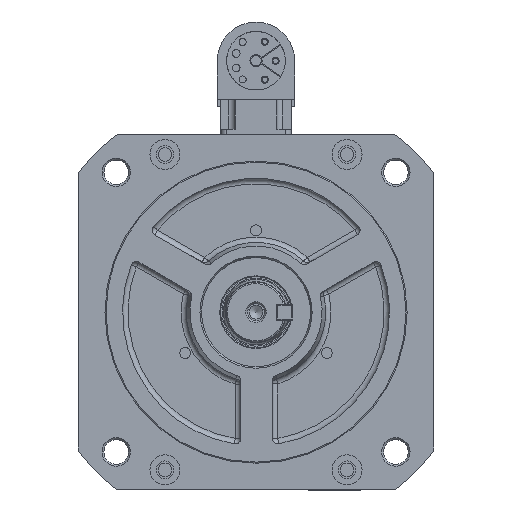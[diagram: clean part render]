
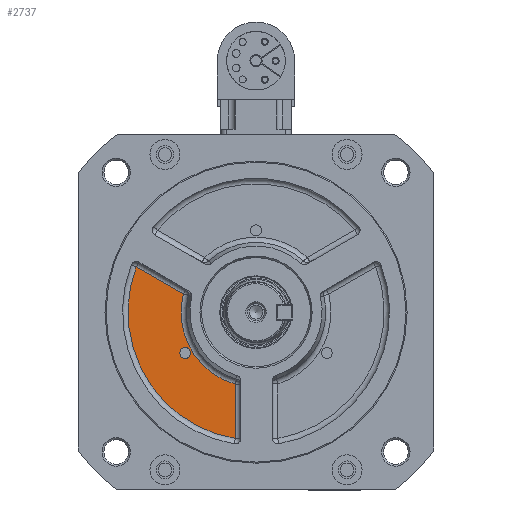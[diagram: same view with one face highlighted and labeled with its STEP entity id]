
A CAD part, left-side view. The second image highlights one B-rep face of the part: STEP entity #2737.
In plain terms, the highlighted planar face has unit normal (-1, 0, 0) as drawn and (0, -1, 0) by its records, which use the part's own axes.
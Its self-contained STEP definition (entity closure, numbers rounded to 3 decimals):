
#2737 = ADVANCED_FACE( '', ( #6639, #6640 ), #6641, .T. );
#6639 = FACE_OUTER_BOUND( '', #12422, .T. );
#6640 = FACE_BOUND( '', #12423, .T. );
#6641 = PLANE( '', #12424 );
#12422 = EDGE_LOOP( '', ( #23179, #23180, #23181, #23182 ) );
#12423 = EDGE_LOOP( '', ( #23183 ) );
#12424 = AXIS2_PLACEMENT_3D( '', #23184, #23185, #23186 );
#23179 = ORIENTED_EDGE( '', *, *, #36653, .T. );
#23180 = ORIENTED_EDGE( '', *, *, #36654, .T. );
#23181 = ORIENTED_EDGE( '', *, *, #36568, .T. );
#23182 = ORIENTED_EDGE( '', *, *, #36655, .T. );
#23183 = ORIENTED_EDGE( '', *, *, #36656, .T. );
#23184 = CARTESIAN_POINT( '', ( 0.069, -28., 0.04 ) );
#23185 = DIRECTION( '', ( 0., -1., 0. ) );
#23186 = DIRECTION( '', ( 0., 0., -1. ) );
#36568 = EDGE_CURVE( '', #43913, #43911, #43914, .T. );
#36653 = EDGE_CURVE( '', #44048, #44049, #44050, .T. );
#36654 = EDGE_CURVE( '', #44049, #43913, #44051, .T. );
#36655 = EDGE_CURVE( '', #43911, #44048, #44052, .T. );
#36656 = EDGE_CURVE( '', #44053, #44053, #44054, .T. );
#43911 = VERTEX_POINT( '', #56006 );
#43913 = VERTEX_POINT( '', #56008 );
#43914 = LINE( '', #56009, #56010 );
#44048 = VERTEX_POINT( '', #56312 );
#44049 = VERTEX_POINT( '', #56313 );
#44050 = LINE( '', #56314, #56315 );
#44051 = CIRCLE( '', #56316, 47. );
#44052 = CIRCLE( '', #56317, 27.5 );
#44053 = VERTEX_POINT( '', #56318 );
#44054 = CIRCLE( '', #56319, 2. );
#56006 = CARTESIAN_POINT( '', ( -7.596, -28., -26.43 ) );
#56008 = CARTESIAN_POINT( '', ( -7.596, -28., -46.331 ) );
#56009 = CARTESIAN_POINT( '', ( -7.596, -28., 0.04 ) );
#56010 = VECTOR( '', #68957, 1000. );
#56312 = CARTESIAN_POINT( '', ( -26.687, -28., 6.637 ) );
#56313 = CARTESIAN_POINT( '', ( -43.922, -28., 16.587 ) );
#56314 = CARTESIAN_POINT( '', ( -3.763, -28., -6.599 ) );
#56315 = VECTOR( '', #69085, 1000. );
#56316 = AXIS2_PLACEMENT_3D( '', #69086, #69087, #69088 );
#56317 = AXIS2_PLACEMENT_3D( '', #69089, #69090, #69091 );
#56318 = CARTESIAN_POINT( '', ( -24.249, -28., -14. ) );
#56319 = AXIS2_PLACEMENT_3D( '', #69092, #69093, #69094 );
#68957 = DIRECTION( '', ( 0., 0., 1. ) );
#69085 = DIRECTION( '', ( -0.866, 0., 0.5 ) );
#69086 = CARTESIAN_POINT( '', ( 0.069, -28., 0.04 ) );
#69087 = DIRECTION( '', ( 0., -1., 0. ) );
#69088 = DIRECTION( '', ( 0., 0., -1. ) );
#69089 = CARTESIAN_POINT( '', ( 0., -28., 0. ) );
#69090 = DIRECTION( '', ( 0., 1., 0. ) );
#69091 = DIRECTION( '', ( 0., 0., -1. ) );
#69092 = CARTESIAN_POINT( '', ( -25.981, -28., -15. ) );
#69093 = DIRECTION( '', ( 0., 1., 0. ) );
#69094 = DIRECTION( '', ( 0.866, 0., 0.5 ) );
